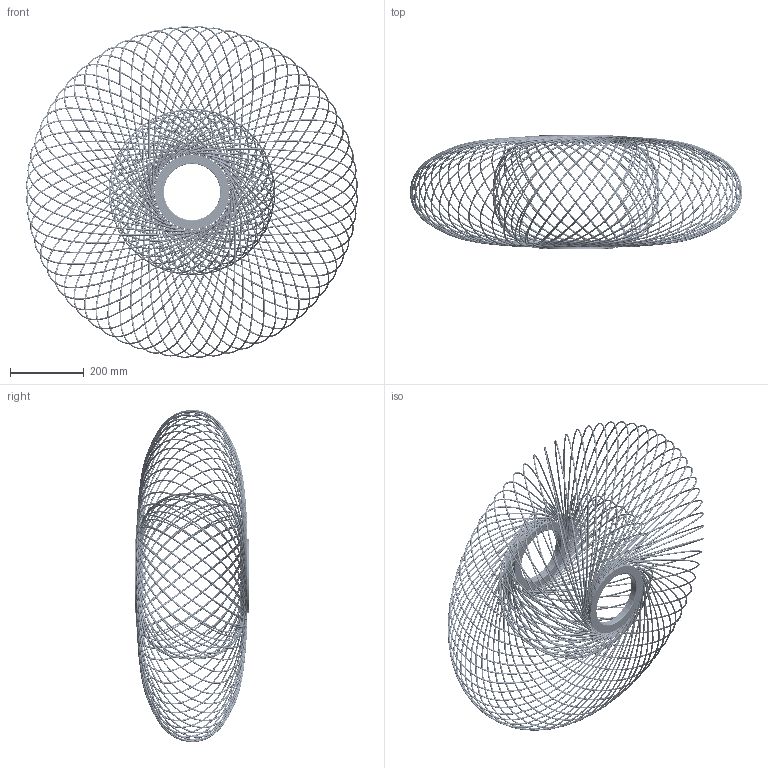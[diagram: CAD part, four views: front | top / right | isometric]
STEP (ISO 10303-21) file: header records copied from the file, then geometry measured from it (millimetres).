
FILE_DESCRIPTION (( 'STEP AP214' ), '1' );
FILE_NAME ('ANWAR 30 STRUCTURE.STEP', '2014-10-22T16:36:46', ( 'Josep Sancho' ), ( '' ), 'SwSTEP 2.0', 'SolidWorks 2010', '' );
FILE_SCHEMA (( 'AUTOMOTIVE_DESIGN' ));
Length unit declared in the file: millimetre
Products named in the file (12): 080100700000 - CONJUNTO FIJACIÓN DIAM.200X17MM SIN ACABADO; 060700400000 - REPULS DIAM.202X17 1,5MM; 061600100000 - ANILLO DIAM.183X3MM DIAM.INT.156MM; 080100100000 - CONJUNTO UNIÓN VARILLAS 900X300MM; 063200100000 - ANGULO SUPERIOR DIAM.EXT.200 DIAM.INT.153 ESP.2MM; 059700300000 - VARILLA INTERIOR DIAM.3,8 900X300MM; 059700200000 - VARILLA EXTERIOR DIAM.3,8 B 900X300MM; 059700100000 - VARILLA EXTERIOR DIAM.3,8 A 900X300MM; 063200200000 - ANGULO INFERIOR DIAM.EXT.200 DIAM.INT.153 ESP.2MM; 026700500000 - DISCO DIAM. 176X2MM DIAM. INT. 153MM; 021601500102 - TORNILLO DIN965 M4X10MM ACERO 6.8 ZINCADO; ANWAR 30 STRUCTURE
Assembly tree (45 placements, depth 3):
  ANWAR 30 STRUCTURE
    080100100000 - CONJUNTO UNIÓN VARILLAS 900X300MM  x8
      063200100000 - ANGULO SUPERIOR DIAM.EXT.200 DIAM.INT.153 ESP.2MM
      059700200000 - VARILLA EXTERIOR DIAM.3,8 B 900X300MM
      063200200000 - ANGULO INFERIOR DIAM.EXT.200 DIAM.INT.153 ESP.2MM
      059700300000 - VARILLA INTERIOR DIAM.3,8 900X300MM
      059700100000 - VARILLA EXTERIOR DIAM.3,8 A 900X300MM
    021601500102 - TORNILLO DIN965 M4X10MM ACERO 6.8 ZINCADO  x18
    080100700000 - CONJUNTO FIJACIÓN DIAM.200X17MM SIN ACABADO  x2
      060700400000 - REPULS DIAM.202X17 1,5MM
      061600100000 - ANILLO DIAM.183X3MM DIAM.INT.156MM
    026700500000 - DISCO DIAM. 176X2MM DIAM. INT. 153MM
Bounding box: 902.98 x 311.5 x 902.98 mm (x, y, z)
Volume: 1350564.7 mm3; surface area: 1401195.4 mm2
Topology: 135 solids, 135 shells, 4424 faces, 10302 edges, 6232 vertices
Faces by surface type: torus 1640, cylinder 1458, plane 578, bspline 512, cone 236
Entity records: 14030 total; most frequent: CARTESIAN_POINT 5283, DIRECTION 1658, ORIENTED_EDGE 1542, EDGE_CURVE 771, AXIS2_PLACEMENT_3D 719, VERTEX_POINT 492, EDGE_LOOP 435, CIRCLE 378
